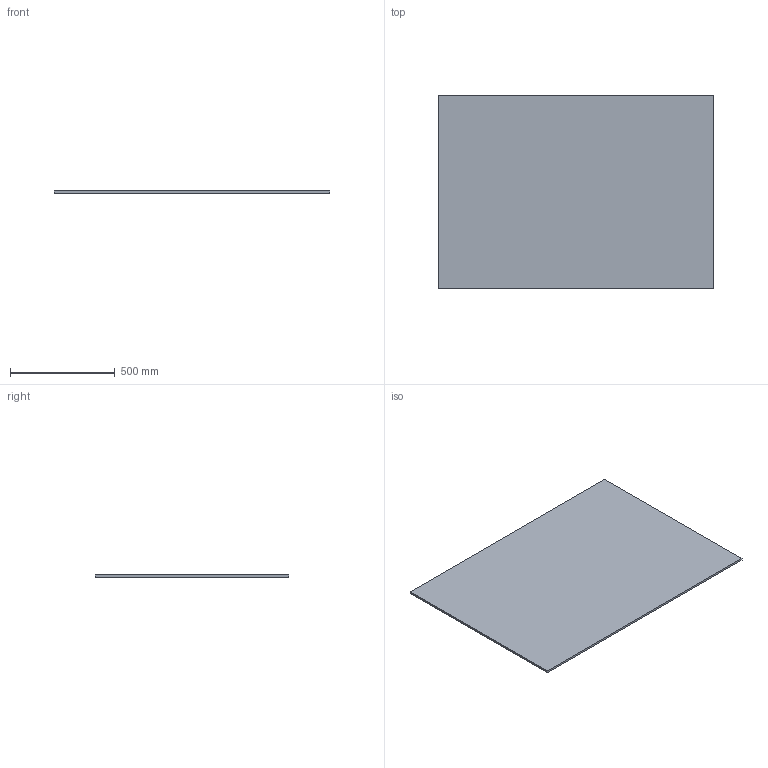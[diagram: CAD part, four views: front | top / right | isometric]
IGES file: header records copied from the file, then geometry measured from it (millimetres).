
Start section: START RECORD GO HERE.
Global section: file name: CU-guillotine-vitre.igs; native system: IBM CATIA IGES - CATIA Version 5 Release 11 ; preprocessor: CATIA Version 5 Release 11 ; author: mta; organization: MONTREUIL; date: 20031030.114836; units: millimetre
Bounding box: 1315 x 924 x 10 mm (x, y, z)
Surface area: 2474900 mm2 (no closed solid volume)
Topology: 0 solids, 0 shells, 6 faces, 24 edges, 24 vertices
Faces by surface type: plane 6
